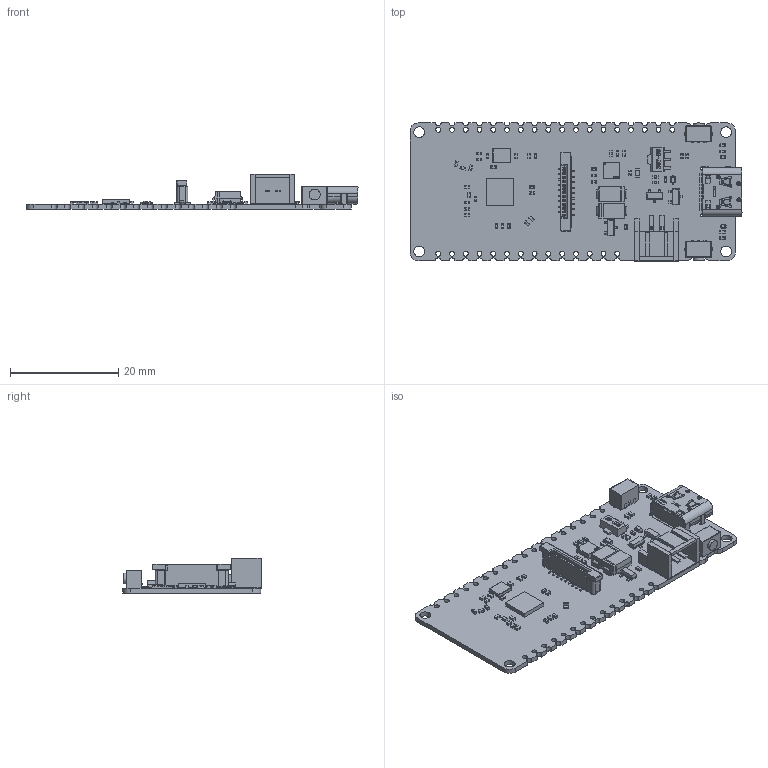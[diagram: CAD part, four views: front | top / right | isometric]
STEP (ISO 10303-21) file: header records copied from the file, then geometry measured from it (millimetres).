
FILE_DESCRIPTION(('Open CASCADE Model'),'2;1');
FILE_NAME('Open CASCADE Shape Model','2024-07-02T09:43:44',('Author'),( 'Open CASCADE'),'Open CASCADE STEP processor 6.8','Open CASCADE 6.8' ,'Unknown');
FILE_SCHEMA(('AUTOMOTIVE_DESIGN { 1 0 10303 214 1 1 1 1 }'));
Length unit declared in the file: millimetre
Products named in the file (120): PCB; Board; C17; CAPC1005(0402); Z1; ESD5B5.0ST1G; SOD-523_L1.2-W0.8-LS1.6-BI; COMPOUND001; Q3; DBZ0003A; BODY-SOT; LEAD-SOT; PIN1-ID; TIEBAR; R11; RESC1005(0402); Q1; C7; C3; U4; Unnamed-PCBMo_delU1; DFN-8_L3.0-W3.0-P0.50-BL-EP; SOLID; U3; User_Library-USB_-_C; X1; 1053685648; Extruded; 1053685920; 1053686056; 1053686192; U7; SOT89; U1; 1053687280; S2; TSA455G00; Open CASCADE STEP translator 6.8 1.14.1.1; Open CASCADE STEP translator 6.8 1.14.1.2; Open CASCADE STEP translator 6.8 1.14.1.3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
Assembly tree (170 placements, depth 5):
  PCB
    Board
    C17
      CAPC1005(0402)
    Z1
      ESD5B5.0ST1G
        SOD-523_L1.2-W0.8-LS1.6-BI
          COMPOUND001
    Q3
      DBZ0003A
        BODY-SOT
        LEAD-SOT  x3
        PIN1-ID
        TIEBAR
    R11
      RESC1005(0402)
    Q1
      DBZ0003A
        BODY-SOT
        LEAD-SOT  x3
        PIN1-ID
        TIEBAR
    C7
      CAPC1005(0402)
    C3
      CAPC1005(0402)
    U4
      Unnamed-PCBMo_delU1
        DFN-8_L3.0-W3.0-P0.50-BL-EP
          SOLID
    U3
      User_Library-USB_-_C
    X1
      1053685648
        Extruded
      1053685920
        Extruded
      1053686056
        Extruded
      1053686192  x4
        Extruded
    U7
      SOT89
    U1
      1053687280
        Extruded
    S2
      TSA455G00
        Open CASCADE STEP translator 6.8 1.14.1.1
        Open CASCADE STEP translator 6.8 1.14.1.2
        Open CASCADE STEP translator 6.8 1.14.1.3
      TSA455G00
    S1
      TSA455G00
        Open CASCADE STEP translator 6.8 1.14.1.1
        Open CASCADE STEP translator 6.8 1.14.1.2
        Open CASCADE STEP translator 6.8 1.14.1.3
      TSA455G00
    R17
      RESC1005(0402)
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Bounding box: 61.22 x 25.46 x 6.5 mm (x, y, z)
Volume: 1837.4 mm3; surface area: 5485.8 mm2
Topology: 125 solids, 132 shells, 5810 faces, 22655 edges, 24469 vertices
Faces by surface type: plane 3421, cylinder 1495, bspline 455, sphere 360, torus 54, cone 25
Full cylindrical faces by diameter (mm): 0.65 x2, 0.9 x36, 2 x6
Entity records: 403668 total; most frequent: CARTESIAN_POINT 154390, DIRECTION 41280, LINE 29064, VECTOR 29064, ORIENTED_EDGE 20592, PCURVE 20592, DEFINITIONAL_REPRESENTATION 20592, EDGE_CURVE 10296
